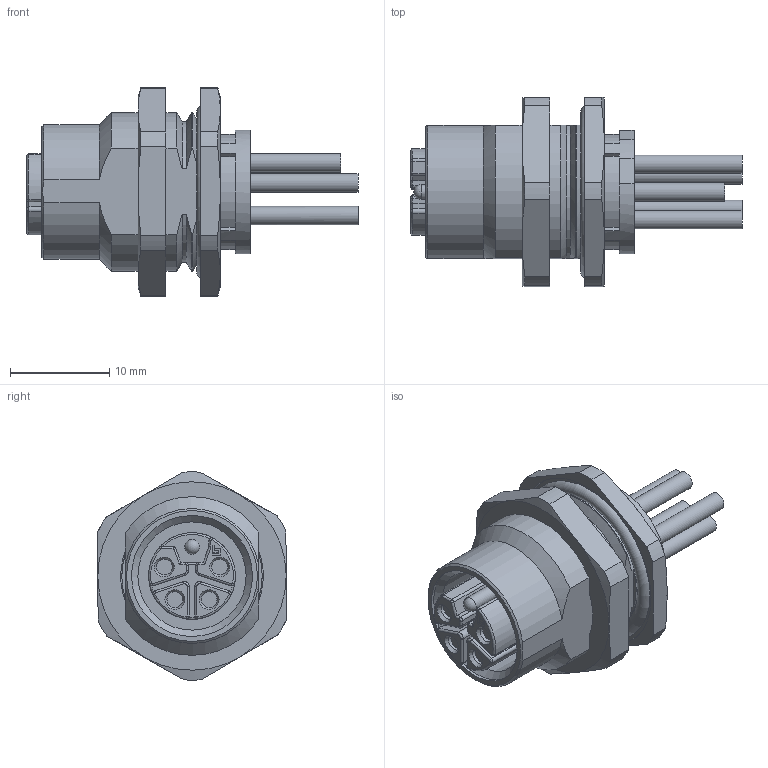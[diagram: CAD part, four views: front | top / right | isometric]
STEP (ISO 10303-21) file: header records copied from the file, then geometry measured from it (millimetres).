
FILE_DESCRIPTION(/* description */ (''),/* implementation_level */ '2;1');
FILE_NAME(/* name */ '09_0642_XXX_05_002_01.stp',/* time_stamp */ '2021-03-18T09:34:02+01:00',/* author */ (''),/* organization */ (''),/* preprocessor_version */ 'ST-DEVELOPER v16',/* originating_system */ 'SIEMENS PLM Software NX 11.0',/* authorisation */ '');
FILE_SCHEMA (('AUTOMOTIVE_DESIGN { 1 0 10303 214 3 1 1 1 }'));
Length unit declared in the file: millimetre
Products named in the file (1): shol1C24539A5gcw
Bounding box: 33.48 x 19.09 x 21 mm (x, y, z)
Volume: 3560.9 mm3; surface area: 3492.6 mm2
Topology: 1 solids, 1 shells, 293 faces, 780 edges, 504 vertices
Faces by surface type: cylinder 119, plane 111, cone 33, torus 18, bspline 11, sphere 1
Full cylindrical faces by diameter (mm): 1.5 x1, 1.6 x4, 1.85 x5, 8.75 x1, 10.6 x1, 10.917 x1, 12.2 x2, 14.16 x1
Entity records: 9411 total; most frequent: CARTESIAN_POINT 2185, DIRECTION 1548, ORIENTED_EDGE 1476, EDGE_CURVE 738, AXIS2_PLACEMENT_3D 603, VERTEX_POINT 490, LINE 342, VECTOR 342
